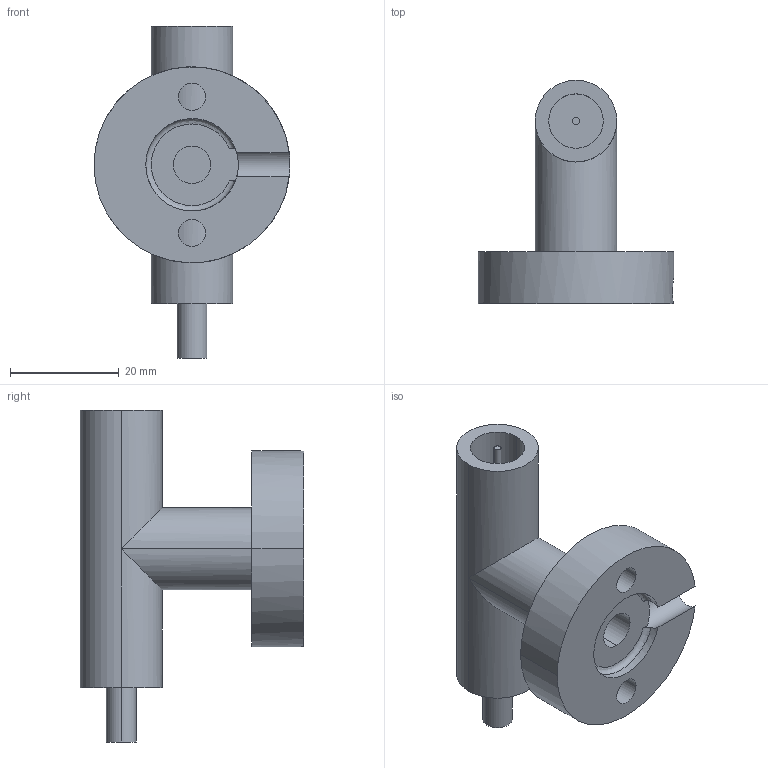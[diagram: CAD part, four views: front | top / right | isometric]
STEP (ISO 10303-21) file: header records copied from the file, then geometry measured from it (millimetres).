
FILE_DESCRIPTION((''),'2;1');
FILE_NAME('ASM0001_ASM','2022-11-09T20:25:53',('Administrator'),(''),'CREO PARAMETRIC BY PTC INC, 2020053','CREO PARAMETRIC BY PTC INC, 2020053','');
FILE_SCHEMA(('CONFIG_CONTROL_DESIGN','SHAPE_APPEARANCE_LAYERS_GROUPS'));
Length unit declared in the file: millimetre
Products named in the file (3): BASE; T-SHAPE-UPPER; ASM0001_ASM
Assembly tree (2 placements, depth 2):
  ASM0001_ASM
    BASE
    T-SHAPE-UPPER
Bounding box: 36 x 41 x 61 mm (x, y, z)
Volume: 19813.9 mm3; surface area: 7956.8 mm2
Topology: 2 solids, 2 shells, 44 faces, 104 edges, 71 vertices
Faces by surface type: cylinder 30, plane 13, torus 1
Entity records: 1853 total; most frequent: CARTESIAN_POINT 367, DIRECTION 248, ORIENTED_EDGE 208, AXIS2_PLACEMENT_3D 108, EDGE_CURVE 104, VERTEX_POINT 71, CIRCLE 59, EDGE_LOOP 57
